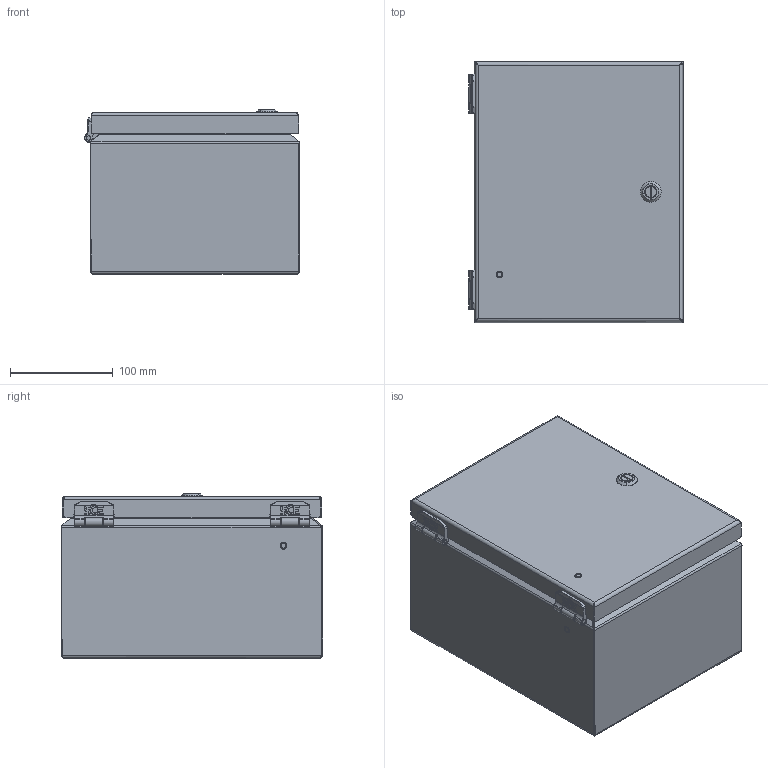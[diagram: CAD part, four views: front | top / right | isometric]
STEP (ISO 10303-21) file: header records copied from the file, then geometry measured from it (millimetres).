
FILE_DESCRIPTION((''),'2;1');
FILE_NAME('MODEL-059_ASM','2021-05-28T14:05:28',('mikek'),('SAGINAW CONTROL & ENGINEERING'),'CREO PARAMETRIC BY PTC INC, 2017260','CREO PARAMETRIC BY PTC INC, 2017260','');
FILE_SCHEMA(('AUTOMOTIVE_DESIGN { 1 0 10303 214 1 1 1 1 }'));
Length unit declared in the file: inch
Products named in the file (25): MODEL-059-BDY; MODEL-059-DR; 112643-BOX-LEAF; 112643-BOX-LEAF-STUD; 112643-BOX_ASM; 112643-DOOR-LEAF; 112643-DOOR-LEAF-STUD; 112643-DOOR_ASM; 112643-PIN; 112643_ASM; 113152; 100097; 100012; 112987_SHAFT; 112987_INSERT; 112984; 112987_SCREW; 112987_NUT; 112987_ASM; MODEL-059-GSKT; 120706; CH-ELJ_SUBPANEL; 102479; CH-ELJ_SUBPANEL-SUBASSEMBLY_ASM; MODEL-059_ASM
Assembly tree (35 placements, depth 4):
  MODEL-059_ASM
    MODEL-059-BDY
    MODEL-059-DR
    112643_ASM  x2
      112643-BOX_ASM
        112643-BOX-LEAF
        112643-BOX-LEAF-STUD
      112643-DOOR_ASM
        112643-DOOR-LEAF
        112643-DOOR-LEAF-STUD
      112643-PIN
    113152  x4
    100097  x2
    100012  x4
    112987_ASM
      112987_SHAFT
      112987_INSERT
      112984
      112987_SCREW
      112987_NUT
    MODEL-059-GSKT
    120706
    CH-ELJ_SUBPANEL-SUBASSEMBLY_ASM
      CH-ELJ_SUBPANEL
      102479  x4
Bounding box: 208.8 x 254 x 159.91 mm (x, y, z)
Volume: 519612.7 mm3; surface area: 641125 mm2
Topology: 34 solids, 36 shells, 3020 faces, 7743 edges, 4756 vertices
Faces by surface type: plane 1010, cylinder 886, bspline 862, cone 126, torus 116, sphere 20
Entity records: 104684 total; most frequent: CARTESIAN_POINT 56076, ORIENTED_EDGE 7350, DIRECTION 6180, EDGE_CURVE 3675, PRESENTATION_STYLE_ASSIGNMENT 3283, STYLED_ITEM 3283, CURVE_STYLE 3026, VERTEX_POINT 2294
